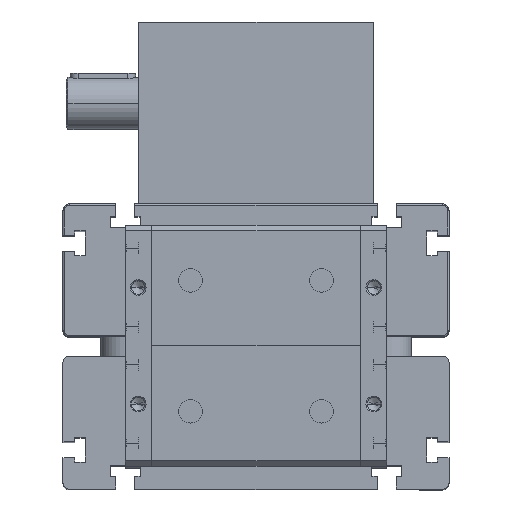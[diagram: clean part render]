
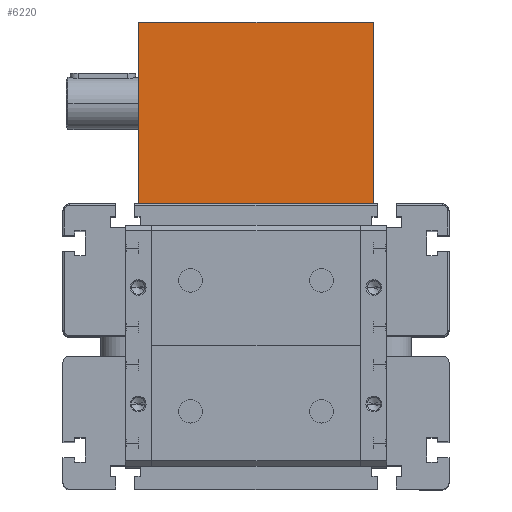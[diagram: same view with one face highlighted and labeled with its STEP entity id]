
A CAD part, top view. The second image highlights one B-rep face of the part: STEP entity #6220.
In plain terms, the highlighted planar face has unit normal (0, 0, 1) as drawn and (0, 0, -1) by its records, which use the part's own axes.
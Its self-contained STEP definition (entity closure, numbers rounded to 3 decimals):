
#1010 = VERTEX_POINT ( 'NONE', #20704 ) ;
#1352 = CARTESIAN_POINT ( 'NONE',  ( 0., 0.5, -155. ) ) ;
#1906 = VECTOR ( 'NONE', #3888, 1000. ) ;
#2643 = ORIENTED_EDGE ( 'NONE', *, *, #20703, .T. ) ;
#3614 = ORIENTED_EDGE ( 'NONE', *, *, #25508, .T. ) ;
#3888 = DIRECTION ( 'NONE',  ( -1., 0., 0. ) ) ;
#5091 = EDGE_CURVE ( 'NONE', #22657, #30698, #12841, .T. ) ;
#6220 = ADVANCED_FACE ( 'NONE', ( #22663 ), #13139, .F. ) ;
#10295 = DIRECTION ( 'NONE',  ( 0., 1., 0. ) ) ;
#11984 = LINE ( 'NONE', #1352, #1906 ) ;
#12290 = EDGE_CURVE ( 'NONE', #15629, #1010, #30464, .T. ) ;
#12841 = LINE ( 'NONE', #23167, #27340 ) ;
#13139 = PLANE ( 'NONE',  #32217 ) ;
#15027 = CARTESIAN_POINT ( 'NONE',  ( 179.5, 138.5, -155. ) ) ;
#15629 = VERTEX_POINT ( 'NONE', #15027 ) ;
#15767 = ORIENTED_EDGE ( 'NONE', *, *, #12290, .T. ) ;
#17038 = ORIENTED_EDGE ( 'NONE', *, *, #5091, .T. ) ;
#17416 = CARTESIAN_POINT ( 'NONE',  ( 180., 0., -155. ) ) ;
#17584 = CARTESIAN_POINT ( 'NONE',  ( 179.5, 0., -155. ) ) ;
#20515 = LINE ( 'NONE', #27784, #29944 ) ;
#20703 = EDGE_CURVE ( 'NONE', #1010, #22657, #11984, .T. ) ;
#20704 = CARTESIAN_POINT ( 'NONE',  ( 179.5, 0.5, -155. ) ) ;
#22657 = VERTEX_POINT ( 'NONE', #25943 ) ;
#22663 = FACE_OUTER_BOUND ( 'NONE', #31921, .T. ) ;
#23167 = CARTESIAN_POINT ( 'NONE',  ( 0.5, 0., -155. ) ) ;
#23458 = DIRECTION ( 'NONE',  ( 0., 0., 1. ) ) ;
#24700 = DIRECTION ( 'NONE',  ( 0., -1., 0. ) ) ;
#25508 = EDGE_CURVE ( 'NONE', #30698, #15629, #20515, .T. ) ;
#25943 = CARTESIAN_POINT ( 'NONE',  ( 0.5, 0.5, -155. ) ) ;
#27340 = VECTOR ( 'NONE', #10295, 1000. ) ;
#27704 = CARTESIAN_POINT ( 'NONE',  ( 0.5, 138.5, -155. ) ) ;
#27784 = CARTESIAN_POINT ( 'NONE',  ( 180., 138.5, -155. ) ) ;
#29944 = VECTOR ( 'NONE', #30850, 1000. ) ;
#30464 = LINE ( 'NONE', #17584, #30543 ) ;
#30543 = VECTOR ( 'NONE', #24700, 1000. ) ;
#30698 = VERTEX_POINT ( 'NONE', #27704 ) ;
#30850 = DIRECTION ( 'NONE',  ( 1., 0., 0. ) ) ;
#31921 = EDGE_LOOP ( 'NONE', ( #15767, #2643, #17038, #3614 ) ) ;
#32217 = AXIS2_PLACEMENT_3D ( 'NONE', #17416, #23458, #33020 ) ;
#33020 = DIRECTION ( 'NONE',  ( 0., -1., 0. ) ) ;
